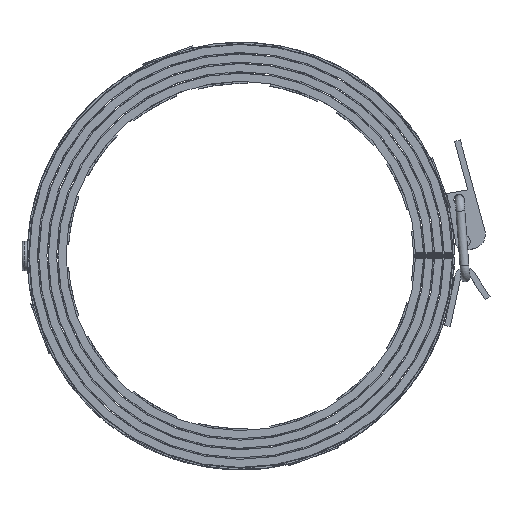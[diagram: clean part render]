
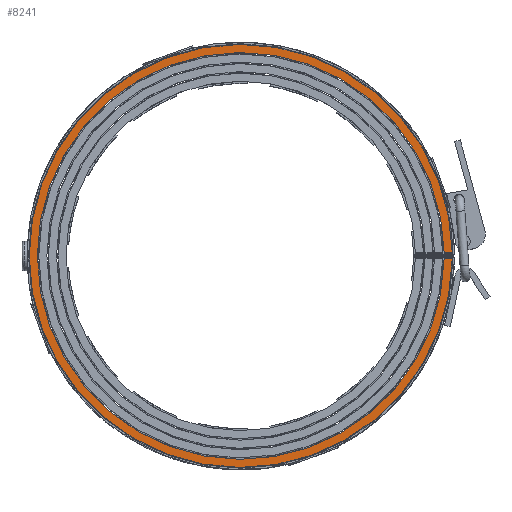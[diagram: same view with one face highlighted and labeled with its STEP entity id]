
A CAD part, top view. The second image highlights one B-rep face of the part: STEP entity #8241.
In plain terms, the highlighted planar face has unit normal (0, 0, 1).
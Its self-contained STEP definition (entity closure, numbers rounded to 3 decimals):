
#330=LINE('',#13014,#1022);
#338=LINE('',#13030,#1030);
#1022=VECTOR('',#10463,2.75);
#1030=VECTOR('',#10481,2.75);
#1539=PLANE('',#8888);
#1985=FACE_OUTER_BOUND('',#2416,.T.);
#2416=EDGE_LOOP('',(#6028,#6029,#6030,#6031));
#2812=CIRCLE('',#8765,69.);
#2913=CIRCLE('',#8889,71.75);
#3447=VERTEX_POINT('',#12770);
#3448=VERTEX_POINT('',#12772);
#3530=VERTEX_POINT('',#13012);
#3533=VERTEX_POINT('',#13028);
#4307=EDGE_CURVE('',#3448,#3447,#2812,.T.);
#4447=EDGE_CURVE('',#3530,#3447,#330,.T.);
#4455=EDGE_CURVE('',#3533,#3530,#2913,.T.);
#4456=EDGE_CURVE('',#3448,#3533,#338,.T.);
#6028=ORIENTED_EDGE('',*,*,#4307,.T.);
#6029=ORIENTED_EDGE('',*,*,#4447,.F.);
#6030=ORIENTED_EDGE('',*,*,#4455,.F.);
#6031=ORIENTED_EDGE('',*,*,#4456,.F.);
#8241=ADVANCED_FACE('',(#1985),#1539,.T.);
#8765=AXIS2_PLACEMENT_3D('',#12773,#10184,#10185);
#8888=AXIS2_PLACEMENT_3D('',#13027,#10477,#10478);
#8889=AXIS2_PLACEMENT_3D('',#13029,#10479,#10480);
#10184=DIRECTION('center_axis',(0.,0.,
-1.));
#10185=DIRECTION('ref_axis',(1.,0.014,0.));
#10463=DIRECTION('',(-1.,0.,0.));
#10477=DIRECTION('center_axis',(0.,0.,
1.));
#10478=DIRECTION('ref_axis',(1.,0.,0.));
#10479=DIRECTION('center_axis',(0.,0.,-1.));
#10480=DIRECTION('ref_axis',(1.,0.014,0.));
#10481=DIRECTION('',(1.,0.,0.));
#12770=CARTESIAN_POINT('',(68.993,1.,25.));
#12772=CARTESIAN_POINT('',(68.993,-1.,25.));
#12773=CARTESIAN_POINT('Origin',(0.,0.,
25.));
#13012=CARTESIAN_POINT('',(71.743,1.,25.));
#13014=CARTESIAN_POINT('',(59.242,1.,25.));
#13027=CARTESIAN_POINT('Origin',(7.497,0.,
25.));
#13028=CARTESIAN_POINT('',(71.743,-1.,25.));
#13029=CARTESIAN_POINT('Origin',(0.,0.,25.));
#13030=CARTESIAN_POINT('',(71.743,-1.,25.));
